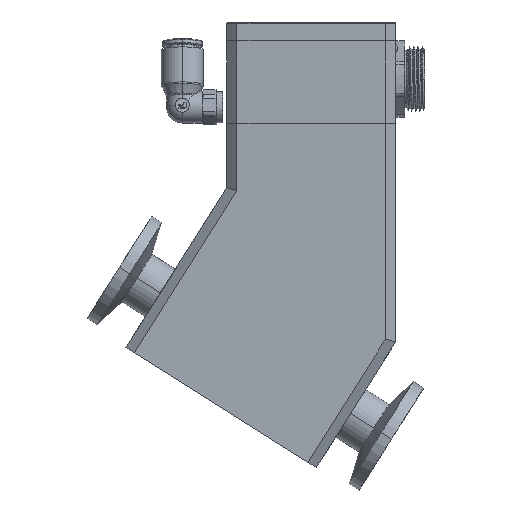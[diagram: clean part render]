
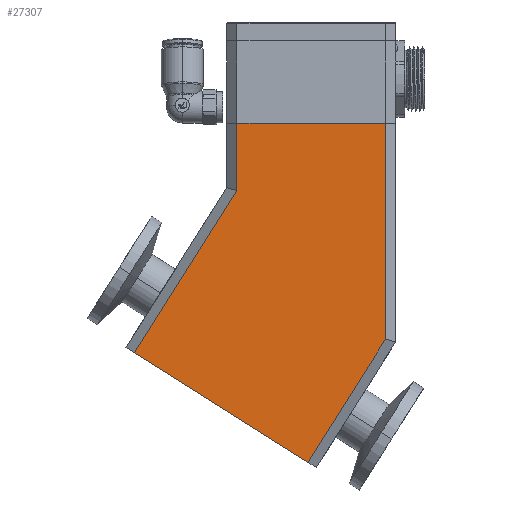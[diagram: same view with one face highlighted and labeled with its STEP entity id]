
A CAD part, front view. The second image highlights one B-rep face of the part: STEP entity #27307.
In plain terms, the highlighted planar face has unit normal (0, -1, 0).
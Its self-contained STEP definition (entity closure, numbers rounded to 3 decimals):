
#139 = LINE ( 'NONE', #2489, #16845 ) ;
#439 = CARTESIAN_POINT ( 'NONE',  ( 0., -21., 27.817 ) ) ;
#508 = CARTESIAN_POINT ( 'NONE',  ( -18.5, -21., 46.276 ) ) ;
#1732 = CARTESIAN_POINT ( 'NONE',  ( 18.5, -21., 9.357 ) ) ;
#2259 = CARTESIAN_POINT ( 'NONE',  ( 18.5, -21., 27.817 ) ) ;
#2489 = CARTESIAN_POINT ( 'NONE',  ( 21.557, -21., 14.196 ) ) ;
#2858 = LINE ( 'NONE', #23309, #26459 ) ;
#2875 = VERTEX_POINT ( 'NONE', #1732 ) ;
#3515 = VECTOR ( 'NONE', #3959, 1000. ) ;
#3959 = DIRECTION ( 'NONE',  ( -0.534, 0., -0.845 ) ) ;
#4534 = ORIENTED_EDGE ( 'NONE', *, *, #24547, .T. ) ;
#6473 = LINE ( 'NONE', #22313, #3515 ) ;
#7454 = DIRECTION ( 'NONE',  ( -0.845, 0., 0.534 ) ) ;
#8474 = FACE_OUTER_BOUND ( 'NONE', #18317, .T. ) ;
#9578 = DIRECTION ( 'NONE',  ( 1., 0., 0. ) ) ;
#11773 = EDGE_CURVE ( 'NONE', #18990, #23605, #6473, .T. ) ;
#12169 = VECTOR ( 'NONE', #9578, 1000. ) ;
#12732 = DIRECTION ( 'NONE',  ( -0.845, 0., 0.534 ) ) ;
#13145 = LINE ( 'NONE', #15883, #12169 ) ;
#14094 = CARTESIAN_POINT ( 'NONE',  ( 18.5, -21., 63. ) ) ;
#14158 = DIRECTION ( 'NONE',  ( 0., 0., -1. ) ) ;
#14394 = ORIENTED_EDGE ( 'NONE', *, *, #22814, .F. ) ;
#14930 = CARTESIAN_POINT ( 'NONE',  ( 1.236, -21., -22.646 ) ) ;
#15553 = CARTESIAN_POINT ( 'NONE',  ( -18.5, -21., 63. ) ) ;
#15588 = VERTEX_POINT ( 'NONE', #40159 ) ;
#15883 = CARTESIAN_POINT ( 'NONE',  ( 21., -21., 63. ) ) ;
#16080 = PLANE ( 'NONE',  #23252 ) ;
#16845 = VECTOR ( 'NONE', #25654, 1000. ) ;
#18192 = VERTEX_POINT ( 'NONE', #15553 ) ;
#18317 = EDGE_LOOP ( 'NONE', ( #27247, #28468, #14394, #31858, #4534, #29860 ) ) ;
#18544 = CARTESIAN_POINT ( 'NONE',  ( -43.992, -21., 5.932 ) ) ;
#18990 = VERTEX_POINT ( 'NONE', #508 ) ;
#21887 = EDGE_CURVE ( 'NONE', #18192, #38151, #13145, .T. ) ;
#22313 = CARTESIAN_POINT ( 'NONE',  ( -21.557, -21., 41.438 ) ) ;
#22369 = DIRECTION ( 'NONE',  ( 0., 1., 0. ) ) ;
#22814 = EDGE_CURVE ( 'NONE', #15588, #23605, #27820, .T. ) ;
#23252 = AXIS2_PLACEMENT_3D ( 'NONE', #439, #22369, #7454 ) ;
#23309 = CARTESIAN_POINT ( 'NONE',  ( -18.5, -21., 27.817 ) ) ;
#23605 = VERTEX_POINT ( 'NONE', #18544 ) ;
#24547 = EDGE_CURVE ( 'NONE', #2875, #38151, #32687, .T. ) ;
#25654 = DIRECTION ( 'NONE',  ( 0.534, 0., 0.845 ) ) ;
#26345 = VECTOR ( 'NONE', #12732, 1000. ) ;
#26459 = VECTOR ( 'NONE', #14158, 1000. ) ;
#27247 = ORIENTED_EDGE ( 'NONE', *, *, #38583, .T. ) ;
#27307 = ADVANCED_FACE ( 'NONE', ( #8474 ), #16080, .F. ) ;
#27820 = LINE ( 'NONE', #14930, #26345 ) ;
#28468 = ORIENTED_EDGE ( 'NONE', *, *, #11773, .T. ) ;
#29860 = ORIENTED_EDGE ( 'NONE', *, *, #21887, .F. ) ;
#31858 = ORIENTED_EDGE ( 'NONE', *, *, #33581, .T. ) ;
#32687 = LINE ( 'NONE', #2259, #34140 ) ;
#33581 = EDGE_CURVE ( 'NONE', #15588, #2875, #139, .T. ) ;
#34140 = VECTOR ( 'NONE', #38874, 1000. ) ;
#38151 = VERTEX_POINT ( 'NONE', #14094 ) ;
#38583 = EDGE_CURVE ( 'NONE', #18192, #18990, #2858, .T. ) ;
#38874 = DIRECTION ( 'NONE',  ( 0., 0., 1. ) ) ;
#40159 = CARTESIAN_POINT ( 'NONE',  ( -0.877, -21., -21.311 ) ) ;
